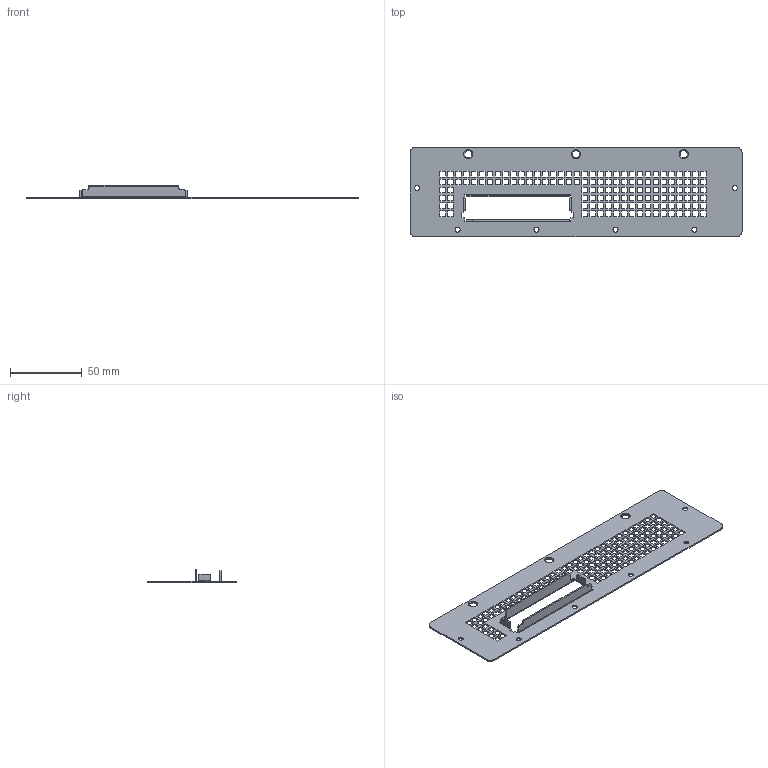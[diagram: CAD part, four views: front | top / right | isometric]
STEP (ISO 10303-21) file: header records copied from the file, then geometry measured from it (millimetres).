
FILE_DESCRIPTION((''),'2;1');
FILE_NAME('OCP3-FIX-FACE-INSERT-DSFF-SFF','2025-07-16T16:24:57',('T_Dawson'),('Dell Technologies'),'CREO PARAMETRIC BY PTC INC, 2023294','CREO PARAMETRIC BY PTC INC, 2023294','');
FILE_SCHEMA(('AUTOMOTIVE_DESIGN { 1 0 10303 214 1 1 1 1 }'));
Length unit declared in the file: millimetre
Products named in the file (1): OCP3-FIX-FACE-INSERT-DSFF-SFF
Bounding box: 231.2 x 62.58 x 9.3 mm (x, y, z)
Volume: 11948.3 mm3; surface area: 27079.7 mm2
Topology: 1 solids, 1 shells, 672 faces, 1976 edges, 1327 vertices
Faces by surface type: plane 620, cylinder 46, cone 6
Entity records: 30907 total; most frequent: CARTESIAN_POINT 4142, ORIENTED_EDGE 3944, DIRECTION 3713, PRESENTATION_STYLE_ASSIGNMENT 1988, STYLED_ITEM 1988, CURVE_STYLE 1987, EDGE_CURVE 1972, VECTOR 1889
